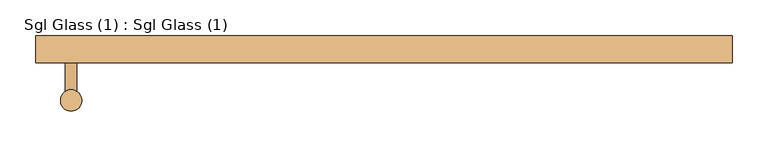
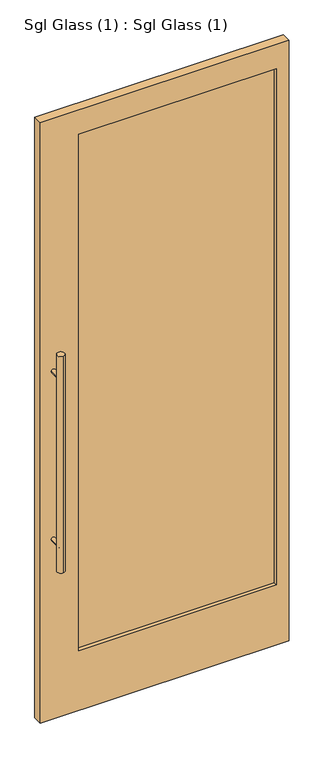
"""IFC4 building model written with IfcOpenShell, lengths in millimetres: door geometry, Sgl Glass (1) : Sgl Glass (1)."""

from ifc_helpers import new_model, si_unit, point, frame, frame_2d, origin, place, context, project, spatial, polyline, circle_curve, trimmed, segment, composite_curve, outline, extrude, source, transform, mapped, element, save


def sgl_glass_1_sgl_glass_1_b295cdb9(model_context):
    return source(origin(), model_context, "Body", "SweptSolid", [
        extrude(outline(polyline([(440.0, 2.0), (-415.0, 2.0), (-415.0, 12.0), (440.0, 12.0), (440.0, 2.0)])), frame((0.0, 0.0, 250.0), z_axis=(0.0, 0.0, 1.0), x_axis=(1.0, 0.0, 0.0)), (0.0, 0.0, 1.0), 2150.0),
        extrude(outline(polyline([(0.0, -490.0), (0.0, 490.0), (2500.0, 490.0), (2500.0, -490.0), (0.0, -490.0)]), holes=[polyline([(2400.0, 440.0), (250.0, 440.0), (250.0, -340.0), (2400.0, -340.0), (2400.0, 440.0)])]), frame((0.0, -13.0, 0.0), z_axis=(0.0, 1.0, 0.0), x_axis=(0.0, 0.0, 1.0)), (0.0, 0.0, 1.0), 38.0),
        extrude(outline(composite_curve([segment(trimmed(circle_curve(frame_2d((-440.0, -66.0)), 15.0), [point((-440.0, -51.0))], [point((-440.0, -81.0))], False, "CARTESIAN"), True, "CONTINUOUS"), segment(trimmed(circle_curve(frame_2d((-440.0, -66.0)), 15.0), [point((-440.0, -81.0))], [point((-440.0, -51.0))], False, "CARTESIAN"), True, "CONTINUOUS")], self_intersect=False)), frame((0.0, 0.0, 650.0), z_axis=(0.0, 0.0, 1.0), x_axis=(1.0, 0.0, 0.0)), (0.0, 0.0, 1.0), 900.0),
        extrude(outline(composite_curve([segment(trimmed(circle_curve(frame_2d((750.0, -440.0)), 8.0), [point((750.0, -432.0))], [point((750.0, -448.0))], False, "CARTESIAN"), True, "CONTINUOUS"), segment(trimmed(circle_curve(frame_2d((750.0, -440.0)), 8.0), [point((750.0, -448.0))], [point((750.0, -432.0))], False, "CARTESIAN"), True, "CONTINUOUS")], self_intersect=False)), frame((0.0, -66.0, 0.0), z_axis=(0.0, 1.0, 0.0), x_axis=(0.0, 0.0, 1.0)), (0.0, 0.0, 1.0), 53.0),
        extrude(outline(composite_curve([segment(trimmed(circle_curve(frame_2d((1450.0, -440.0)), 8.0), [point((1450.0, -432.0))], [point((1450.0, -448.0))], False, "CARTESIAN"), True, "CONTINUOUS"), segment(trimmed(circle_curve(frame_2d((1450.0, -440.0)), 8.0), [point((1450.0, -448.0))], [point((1450.0, -432.0))], False, "CARTESIAN"), True, "CONTINUOUS")], self_intersect=False)), frame((0.0, -66.0, 0.0), z_axis=(0.0, 1.0, 0.0), x_axis=(0.0, 0.0, 1.0)), (0.0, 0.0, 1.0), 53.0),
    ])


if __name__ == "__main__":
    model = new_model("IFC4")
    model_context = context("Model", 3, world=origin())
    ifc_project = project(units=[si_unit("LENGTHUNIT", "METRE", prefix="MILLI")], contexts=[model_context])
    site = spatial("IfcSite", under=ifc_project)
    building = spatial("IfcBuilding", under=site)
    placement = place(None, origin())
    sgl_glass_1_sgl_glass_1_shape = sgl_glass_1_sgl_glass_1_b295cdb9(model_context)
    element("IfcDoor", 1, ObjectType="Sgl Glass (1) : Sgl Glass (1)", at=placement, inside=building, context=model_context, shape_type="MappedRepresentation", body=[
        mapped(sgl_glass_1_sgl_glass_1_shape, transform((0.0, 0.0, 0.0), x_axis=(1.0, 0.0, 0.0), y_axis=(0.0, 1.0, 0.0), z_axis=(0.0, 0.0, 1.0))),
    ])
    save(model, "model.ifc")
